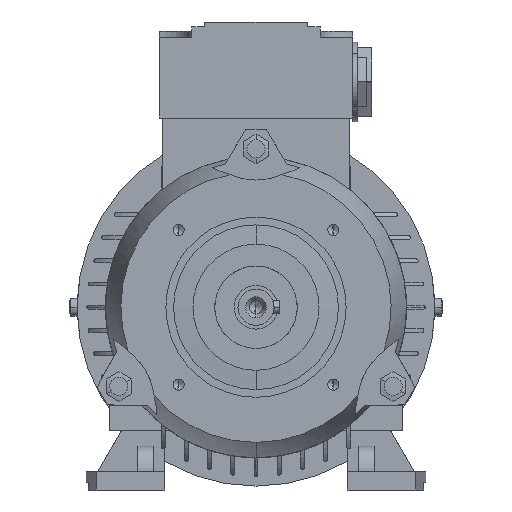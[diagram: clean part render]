
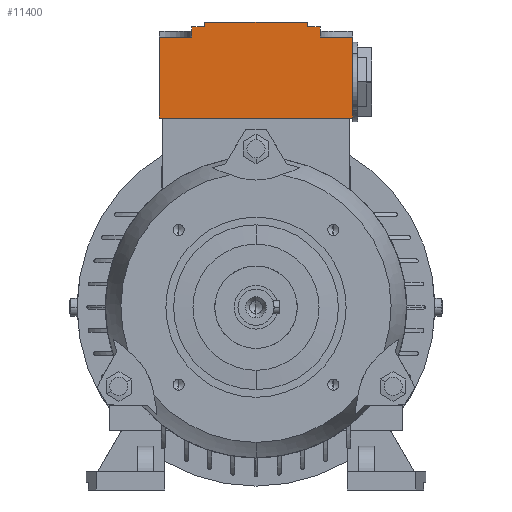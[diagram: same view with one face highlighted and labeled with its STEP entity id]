
A CAD part, left-side view. The second image highlights one B-rep face of the part: STEP entity #11400.
In plain terms, the highlighted planar face has unit normal (-1, 0, 0).
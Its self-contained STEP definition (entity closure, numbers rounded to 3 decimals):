
#188 = CARTESIAN_POINT ( 'NONE',  ( 3.5, -20., 109.888 ) ) ;
#324 = CARTESIAN_POINT ( 'NONE',  ( 3.5, 0., 73.5 ) ) ;
#490 = VERTEX_POINT ( 'NONE', #6921 ) ;
#497 = VERTEX_POINT ( 'NONE', #14812 ) ;
#501 = ORIENTED_EDGE ( 'NONE', *, *, #9535, .T. ) ;
#583 = VERTEX_POINT ( 'NONE', #4065 ) ;
#764 = EDGE_CURVE ( 'NONE', #8201, #497, #12565, .T. ) ;
#910 = LINE ( 'NONE', #19297, #14198 ) ;
#942 = VERTEX_POINT ( 'NONE', #13267 ) ;
#1079 = EDGE_CURVE ( 'NONE', #20017, #490, #13866, .T. ) ;
#1347 = EDGE_CURVE ( 'NONE', #5667, #2777, #18449, .T. ) ;
#1586 = EDGE_CURVE ( 'NONE', #8089, #583, #2605, .T. ) ;
#1651 = LINE ( 'NONE', #19091, #6444 ) ;
#1707 = EDGE_CURVE ( 'NONE', #8089, #18622, #4668, .T. ) ;
#1893 = CARTESIAN_POINT ( 'NONE',  ( 3.5, -37.5, 104.96 ) ) ;
#2155 = DIRECTION ( 'NONE',  ( 0., 0., -1. ) ) ;
#2251 = ORIENTED_EDGE ( 'NONE', *, *, #13248, .F. ) ;
#2255 = VECTOR ( 'NONE', #16061, 1000. ) ;
#2605 = LINE ( 'NONE', #11649, #17737 ) ;
#2754 = DIRECTION ( 'NONE',  ( 0., 1., 0. ) ) ;
#2777 = VERTEX_POINT ( 'NONE', #14748 ) ;
#2997 = VECTOR ( 'NONE', #15526, 1000. ) ;
#3016 = LINE ( 'NONE', #6310, #13649 ) ;
#3527 = CARTESIAN_POINT ( 'NONE',  ( 3.5, 0., 88.5 ) ) ;
#3657 = EDGE_CURVE ( 'NONE', #18622, #12683, #10881, .T. ) ;
#3700 = LINE ( 'NONE', #9952, #19925 ) ;
#3815 = VERTEX_POINT ( 'NONE', #3974 ) ;
#3974 = CARTESIAN_POINT ( 'NONE',  ( 3.5, 25., 108.975 ) ) ;
#4065 = CARTESIAN_POINT ( 'NONE',  ( 3.5, 20., 108.975 ) ) ;
#4082 = ORIENTED_EDGE ( 'NONE', *, *, #10074, .T. ) ;
#4639 = DIRECTION ( 'NONE',  ( 0., 0., -1. ) ) ;
#4668 = LINE ( 'NONE', #10816, #2997 ) ;
#4841 = EDGE_LOOP ( 'NONE', ( #9598, #4082, #12119, #12476, #6077, #12585, #11940, #2251, #9671, #501, #8711, #19345, #15996, #7771 ) ) ;
#5667 = VERTEX_POINT ( 'NONE', #1893 ) ;
#5850 = LINE ( 'NONE', #14692, #10463 ) ;
#6077 = ORIENTED_EDGE ( 'NONE', *, *, #3657, .F. ) ;
#6310 = CARTESIAN_POINT ( 'NONE',  ( 3.5, -25., 107.88 ) ) ;
#6407 = DIRECTION ( 'NONE',  ( 1., 0., 0. ) ) ;
#6444 = VECTOR ( 'NONE', #17448, 1000. ) ;
#6910 = CARTESIAN_POINT ( 'NONE',  ( 3.5, 25., 107.15 ) ) ;
#6921 = CARTESIAN_POINT ( 'NONE',  ( 3.5, -25., 107.15 ) ) ;
#7003 = DIRECTION ( 'NONE',  ( 0., -1., 0. ) ) ;
#7640 = VECTOR ( 'NONE', #12665, 1000. ) ;
#7669 = VECTOR ( 'NONE', #2754, 1000. ) ;
#7771 = ORIENTED_EDGE ( 'NONE', *, *, #17931, .F. ) ;
#7833 = DIRECTION ( 'NONE',  ( 0., 0., 1. ) ) ;
#8037 = DIRECTION ( 'NONE',  ( 0., 1., 0. ) ) ;
#8089 = VERTEX_POINT ( 'NONE', #9499 ) ;
#8167 = CARTESIAN_POINT ( 'NONE',  ( 3.5, 0., 108.975 ) ) ;
#8201 = VERTEX_POINT ( 'NONE', #19531 ) ;
#8682 = EDGE_CURVE ( 'NONE', #12683, #20017, #5850, .T. ) ;
#8711 = ORIENTED_EDGE ( 'NONE', *, *, #12367, .T. ) ;
#9245 = CARTESIAN_POINT ( 'NONE',  ( 3.5, -25., 108.063 ) ) ;
#9340 = VECTOR ( 'NONE', #15393, 1000. ) ;
#9499 = CARTESIAN_POINT ( 'NONE',  ( 3.5, 20., 110.8 ) ) ;
#9535 = EDGE_CURVE ( 'NONE', #19672, #11238, #1651, .T. ) ;
#9598 = ORIENTED_EDGE ( 'NONE', *, *, #1347, .T. ) ;
#9671 = ORIENTED_EDGE ( 'NONE', *, *, #18943, .T. ) ;
#9952 = CARTESIAN_POINT ( 'NONE',  ( 3.5, 18.75, 104.96 ) ) ;
#10074 = EDGE_CURVE ( 'NONE', #2777, #490, #3016, .T. ) ;
#10235 = CARTESIAN_POINT ( 'NONE',  ( 3.5, -37.5, 105.325 ) ) ;
#10463 = VECTOR ( 'NONE', #7003, 1000. ) ;
#10816 = CARTESIAN_POINT ( 'NONE',  ( 3.5, 0., 110.8 ) ) ;
#10881 = LINE ( 'NONE', #188, #9340 ) ;
#11238 = VERTEX_POINT ( 'NONE', #19953 ) ;
#11400 = ADVANCED_FACE ( 'NONE', ( #11431 ), #17568, .F. ) ;
#11431 = FACE_OUTER_BOUND ( 'NONE', #4841, .T. ) ;
#11649 = CARTESIAN_POINT ( 'NONE',  ( 3.5, 20., 109.888 ) ) ;
#11940 = ORIENTED_EDGE ( 'NONE', *, *, #1586, .T. ) ;
#12119 = ORIENTED_EDGE ( 'NONE', *, *, #1079, .F. ) ;
#12367 = EDGE_CURVE ( 'NONE', #11238, #942, #3700, .T. ) ;
#12476 = ORIENTED_EDGE ( 'NONE', *, *, #8682, .F. ) ;
#12565 = LINE ( 'NONE', #324, #7640 ) ;
#12585 = ORIENTED_EDGE ( 'NONE', *, *, #1707, .F. ) ;
#12665 = DIRECTION ( 'NONE',  ( 0., 1., 0. ) ) ;
#12683 = VERTEX_POINT ( 'NONE', #15576 ) ;
#13049 = VECTOR ( 'NONE', #17213, 1000. ) ;
#13138 = DIRECTION ( 'NONE',  ( 0., 1., 0. ) ) ;
#13219 = LINE ( 'NONE', #10235, #18737 ) ;
#13248 = EDGE_CURVE ( 'NONE', #3815, #583, #15959, .T. ) ;
#13267 = CARTESIAN_POINT ( 'NONE',  ( 3.5, 37.5, 104.96 ) ) ;
#13591 = DIRECTION ( 'NONE',  ( 0., 0., -1. ) ) ;
#13649 = VECTOR ( 'NONE', #7833, 1000. ) ;
#13758 = EDGE_CURVE ( 'NONE', #942, #497, #18755, .T. ) ;
#13866 = LINE ( 'NONE', #9245, #13891 ) ;
#13891 = VECTOR ( 'NONE', #4639, 1000. ) ;
#14144 = CARTESIAN_POINT ( 'NONE',  ( 3.5, 37.5, 88.5 ) ) ;
#14198 = VECTOR ( 'NONE', #2155, 1000. ) ;
#14279 = CARTESIAN_POINT ( 'NONE',  ( 3.5, -25., 108.975 ) ) ;
#14692 = CARTESIAN_POINT ( 'NONE',  ( 3.5, 0., 108.975 ) ) ;
#14748 = CARTESIAN_POINT ( 'NONE',  ( 3.5, -25., 104.96 ) ) ;
#14812 = CARTESIAN_POINT ( 'NONE',  ( 3.5, 37.5, 73.5 ) ) ;
#15393 = DIRECTION ( 'NONE',  ( 0., 0., -1. ) ) ;
#15526 = DIRECTION ( 'NONE',  ( 0., -1., 0. ) ) ;
#15576 = CARTESIAN_POINT ( 'NONE',  ( 3.5, -20., 108.975 ) ) ;
#15959 = LINE ( 'NONE', #8167, #2255 ) ;
#15996 = ORIENTED_EDGE ( 'NONE', *, *, #764, .F. ) ;
#16061 = DIRECTION ( 'NONE',  ( 0., -1., 0. ) ) ;
#16806 = CARTESIAN_POINT ( 'NONE',  ( 3.5, -18.75, 104.96 ) ) ;
#17213 = DIRECTION ( 'NONE',  ( 0., 0., -1. ) ) ;
#17448 = DIRECTION ( 'NONE',  ( 0., 0., -1. ) ) ;
#17568 = PLANE ( 'NONE',  #18239 ) ;
#17737 = VECTOR ( 'NONE', #13591, 1000. ) ;
#17931 = EDGE_CURVE ( 'NONE', #5667, #8201, #13219, .T. ) ;
#18239 = AXIS2_PLACEMENT_3D ( 'NONE', #3527, #6407, #8037 ) ;
#18449 = LINE ( 'NONE', #16806, #7669 ) ;
#18622 = VERTEX_POINT ( 'NONE', #19519 ) ;
#18737 = VECTOR ( 'NONE', #19467, 1000. ) ;
#18755 = LINE ( 'NONE', #14144, #13049 ) ;
#18943 = EDGE_CURVE ( 'NONE', #3815, #19672, #910, .T. ) ;
#19091 = CARTESIAN_POINT ( 'NONE',  ( 3.5, 25., 107.88 ) ) ;
#19297 = CARTESIAN_POINT ( 'NONE',  ( 3.5, 25., 108.063 ) ) ;
#19345 = ORIENTED_EDGE ( 'NONE', *, *, #13758, .T. ) ;
#19467 = DIRECTION ( 'NONE',  ( 0., 0., -1. ) ) ;
#19519 = CARTESIAN_POINT ( 'NONE',  ( 3.5, -20., 110.8 ) ) ;
#19531 = CARTESIAN_POINT ( 'NONE',  ( 3.5, -37.5, 73.5 ) ) ;
#19672 = VERTEX_POINT ( 'NONE', #6910 ) ;
#19925 = VECTOR ( 'NONE', #13138, 1000. ) ;
#19953 = CARTESIAN_POINT ( 'NONE',  ( 3.5, 25., 104.96 ) ) ;
#20017 = VERTEX_POINT ( 'NONE', #14279 ) ;
